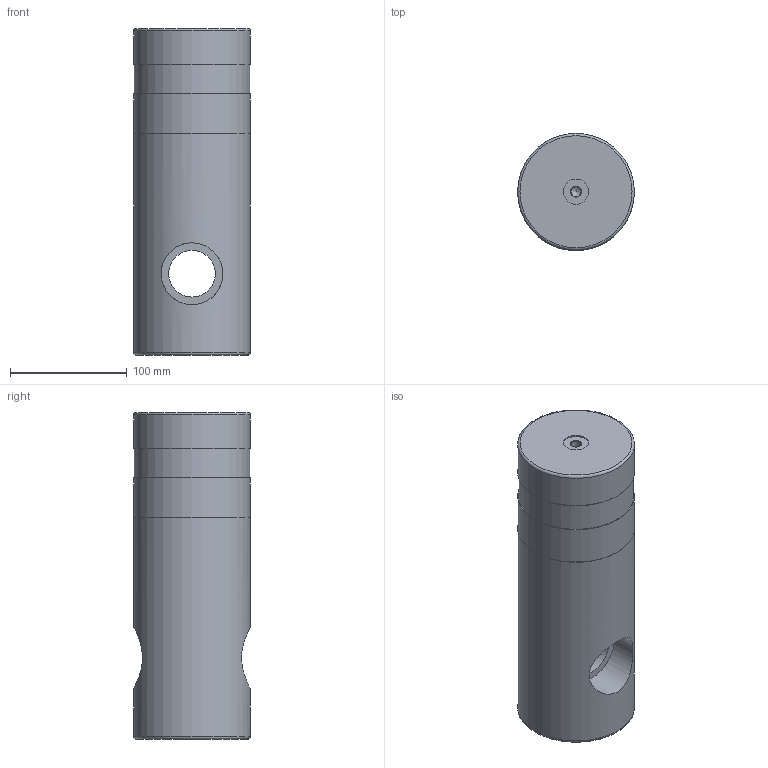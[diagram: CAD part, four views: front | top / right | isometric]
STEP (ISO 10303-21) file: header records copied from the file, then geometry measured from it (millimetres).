
FILE_DESCRIPTION(('STEP AP242'),'1');
FILE_NAME('A.6040 Feststellpatrone.stp','2026-04-23T09:35:08',(' '),(' '),'Spatial InterOp 3D',' ',' ');
FILE_SCHEMA(('AP242_MANAGED_MODEL_BASED_3D_ENGINEERING_MIM_LF {1 0 10303 442 1 1 4}'));
Length unit declared in the file: millimetre
Products named in the file (1): A.6040 Feststellpatrone
Bounding box: 100 x 100 x 280 mm (x, y, z)
Volume: 2018180.3 mm3; surface area: 114825.1 mm2
Topology: 1 solids, 1 shells, 23 faces, 42 edges, 26 vertices
Faces by surface type: cylinder 10, plane 7, cone 4, torus 2
Full cylindrical faces by diameter (mm): 8.566 x2, 21.5 x1, 40 x1, 53 x2, 98.8 x1, 100 x3
Entity records: 973 total; most frequent: CARTESIAN_POINT 309, DIRECTION 90, EDGE_LOOP 46, ORIENTED_EDGE 46, AXIS2_PLACEMENT_3D 45, FACE_OUTER_BOUND 35, STYLED_ITEM 24, PRESENTATION_STYLE_ASSIGNMENT 24
